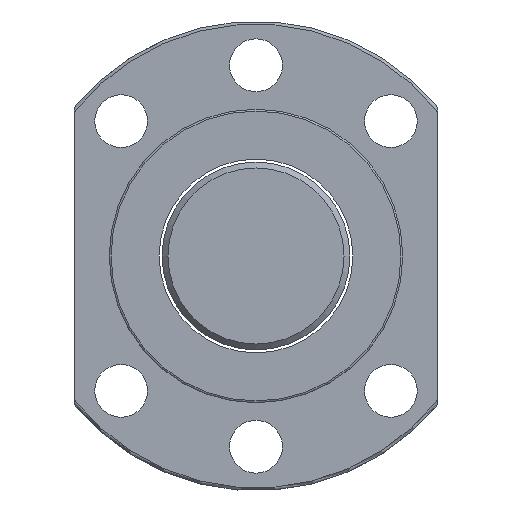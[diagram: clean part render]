
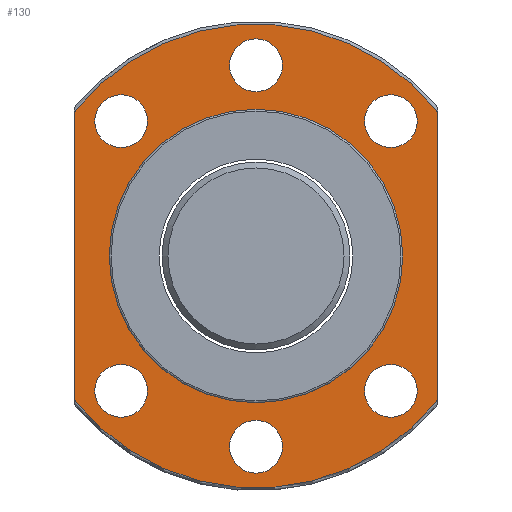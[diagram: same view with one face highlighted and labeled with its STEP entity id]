
A CAD part, left-side view. The second image highlights one B-rep face of the part: STEP entity #130.
In plain terms, the highlighted planar face has unit normal (-1, 0, 0).
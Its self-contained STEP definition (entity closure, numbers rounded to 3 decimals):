
#130=ADVANCED_FACE('',(#189,#190,#191,#192,#193,#194,#195,#165),#157,.T.);
#157=PLANE('',#506);
#165=FACE_OUTER_BOUND('',#236,.T.);
#181=LINE('',#695,#185);
#182=LINE('',#699,#186);
#185=VECTOR('',#573,1.);
#186=VECTOR('',#576,1.);
#189=FACE_BOUND('',#229,.T.);
#190=FACE_BOUND('',#230,.T.);
#191=FACE_BOUND('',#231,.T.);
#192=FACE_BOUND('',#232,.T.);
#193=FACE_BOUND('',#233,.T.);
#194=FACE_BOUND('',#234,.T.);
#195=FACE_BOUND('',#235,.T.);
#229=EDGE_LOOP('',(#285));
#230=EDGE_LOOP('',(#286));
#231=EDGE_LOOP('',(#287));
#232=EDGE_LOOP('',(#288));
#233=EDGE_LOOP('',(#289));
#234=EDGE_LOOP('',(#290));
#235=EDGE_LOOP('',(#291));
#236=EDGE_LOOP('',(#292,#293,#294,#295));
#285=ORIENTED_EDGE('',*,*,#418,.T.);
#286=ORIENTED_EDGE('',*,*,#419,.F.);
#287=ORIENTED_EDGE('',*,*,#420,.F.);
#288=ORIENTED_EDGE('',*,*,#421,.F.);
#289=ORIENTED_EDGE('',*,*,#422,.F.);
#290=ORIENTED_EDGE('',*,*,#423,.F.);
#291=ORIENTED_EDGE('',*,*,#424,.F.);
#292=ORIENTED_EDGE('',*,*,#425,.F.);
#293=ORIENTED_EDGE('',*,*,#426,.T.);
#294=ORIENTED_EDGE('',*,*,#427,.F.);
#295=ORIENTED_EDGE('',*,*,#428,.F.);
#379=VERTEX_POINT('',#679);
#380=VERTEX_POINT('',#681);
#381=VERTEX_POINT('',#683);
#382=VERTEX_POINT('',#685);
#383=VERTEX_POINT('',#687);
#384=VERTEX_POINT('',#689);
#385=VERTEX_POINT('',#691);
#386=VERTEX_POINT('',#693);
#387=VERTEX_POINT('',#694);
#388=VERTEX_POINT('',#696);
#389=VERTEX_POINT('',#698);
#418=EDGE_CURVE('',#379,#379,#465,.T.);
#419=EDGE_CURVE('',#380,#380,#466,.T.);
#420=EDGE_CURVE('',#381,#381,#467,.T.);
#421=EDGE_CURVE('',#382,#382,#468,.T.);
#422=EDGE_CURVE('',#383,#383,#469,.T.);
#423=EDGE_CURVE('',#384,#384,#470,.T.);
#424=EDGE_CURVE('',#385,#385,#471,.T.);
#425=EDGE_CURVE('',#386,#387,#472,.T.);
#426=EDGE_CURVE('',#386,#388,#181,.T.);
#427=EDGE_CURVE('',#389,#388,#473,.T.);
#428=EDGE_CURVE('',#387,#389,#182,.T.);
#465=CIRCLE('',#497,25.);
#466=CIRCLE('',#498,4.5);
#467=CIRCLE('',#499,4.5);
#468=CIRCLE('',#500,4.5);
#469=CIRCLE('',#501,4.5);
#470=CIRCLE('',#502,4.5);
#471=CIRCLE('',#503,4.5);
#472=CIRCLE('',#504,39.5);
#473=CIRCLE('',#505,39.5);
#497=AXIS2_PLACEMENT_3D('',#678,#557,#558);
#498=AXIS2_PLACEMENT_3D('',#680,#559,#560);
#499=AXIS2_PLACEMENT_3D('',#682,#561,#562);
#500=AXIS2_PLACEMENT_3D('',#684,#563,#564);
#501=AXIS2_PLACEMENT_3D('',#686,#565,#566);
#502=AXIS2_PLACEMENT_3D('',#688,#567,#568);
#503=AXIS2_PLACEMENT_3D('',#690,#569,#570);
#504=AXIS2_PLACEMENT_3D('',#692,#571,#572);
#505=AXIS2_PLACEMENT_3D('',#697,#574,#575);
#506=AXIS2_PLACEMENT_3D('',#700,#577,#578);
#557=DIRECTION('',(1.,0.,0.));
#558=DIRECTION('',(0.,1.,0.));
#559=DIRECTION('',(-1.,0.,0.));
#560=DIRECTION('',(0.,-1.,0.));
#561=DIRECTION('',(-1.,0.,0.));
#562=DIRECTION('',(0.,-1.,0.));
#563=DIRECTION('',(-1.,0.,0.));
#564=DIRECTION('',(0.,-1.,0.));
#565=DIRECTION('',(-1.,0.,0.));
#566=DIRECTION('',(0.,-1.,0.));
#567=DIRECTION('',(-1.,0.,0.));
#568=DIRECTION('',(0.,-1.,0.));
#569=DIRECTION('',(-1.,0.,0.));
#570=DIRECTION('',(0.,-1.,0.));
#571=DIRECTION('',(1.,0.,0.));
#572=DIRECTION('',(0.,1.,0.));
#573=DIRECTION('',(0.,0.,-1.));
#574=DIRECTION('',(1.,0.,0.));
#575=DIRECTION('',(0.,1.,0.));
#576=DIRECTION('',(0.,0.,-1.));
#577=DIRECTION('',(-1.,0.,0.));
#578=DIRECTION('',(0.,-1.,0.));
#678=CARTESIAN_POINT('',(-0.893,0.,0.));
#679=CARTESIAN_POINT('',(-0.893,25.,0.));
#680=CARTESIAN_POINT('',(-0.893,22.981,22.981));
#681=CARTESIAN_POINT('',(-0.893,18.481,22.981));
#682=CARTESIAN_POINT('',(-0.893,-22.981,22.981));
#683=CARTESIAN_POINT('',(-0.893,-27.481,22.981));
#684=CARTESIAN_POINT('',(-0.893,-22.981,-22.981));
#685=CARTESIAN_POINT('',(-0.893,-27.481,-22.981));
#686=CARTESIAN_POINT('',(-0.893,22.981,-22.981));
#687=CARTESIAN_POINT('',(-0.893,18.481,-22.981));
#688=CARTESIAN_POINT('',(-0.893,0.,32.5));
#689=CARTESIAN_POINT('',(-0.893,-4.5,32.5));
#690=CARTESIAN_POINT('',(-0.893,0.,-32.5));
#691=CARTESIAN_POINT('',(-0.893,-4.5,-32.5));
#692=CARTESIAN_POINT('',(-0.893,0.,0.));
#693=CARTESIAN_POINT('',(-0.893,31.,24.48));
#694=CARTESIAN_POINT('',(-0.893,-31.,24.48));
#695=CARTESIAN_POINT('',(-0.893,31.,0.));
#696=CARTESIAN_POINT('',(-0.893,31.,-24.48));
#697=CARTESIAN_POINT('',(-0.893,0.,0.));
#698=CARTESIAN_POINT('',(-0.893,-31.,-24.48));
#699=CARTESIAN_POINT('',(-0.893,-31.,0.));
#700=CARTESIAN_POINT('',(-0.893,32.25,0.));
